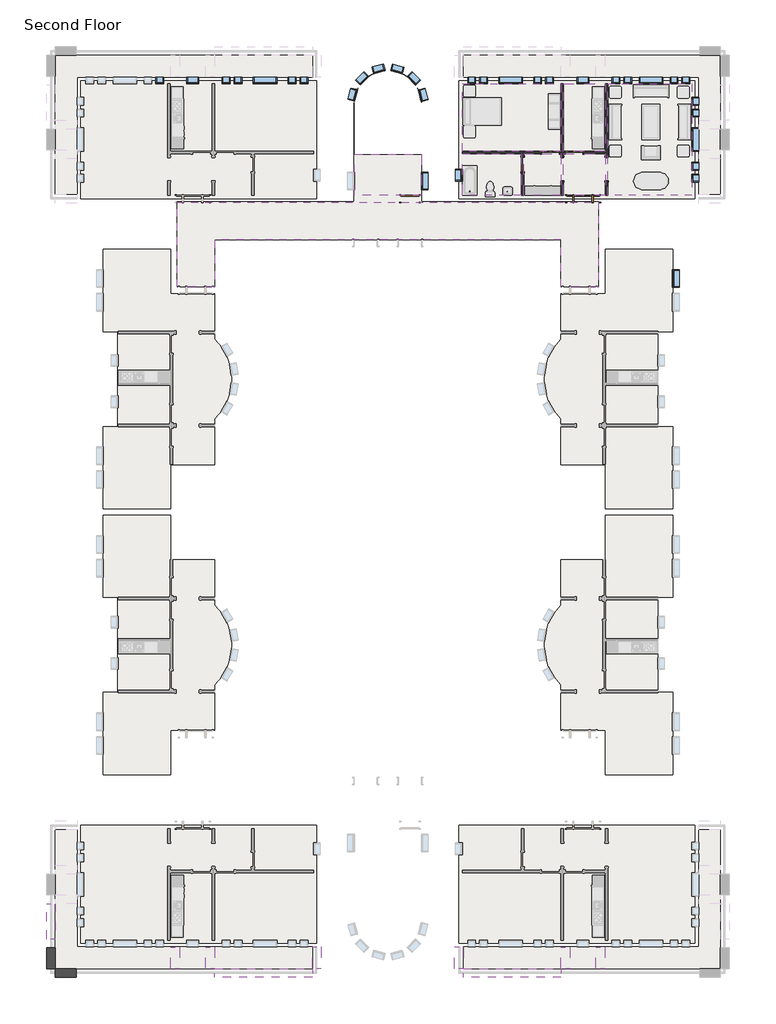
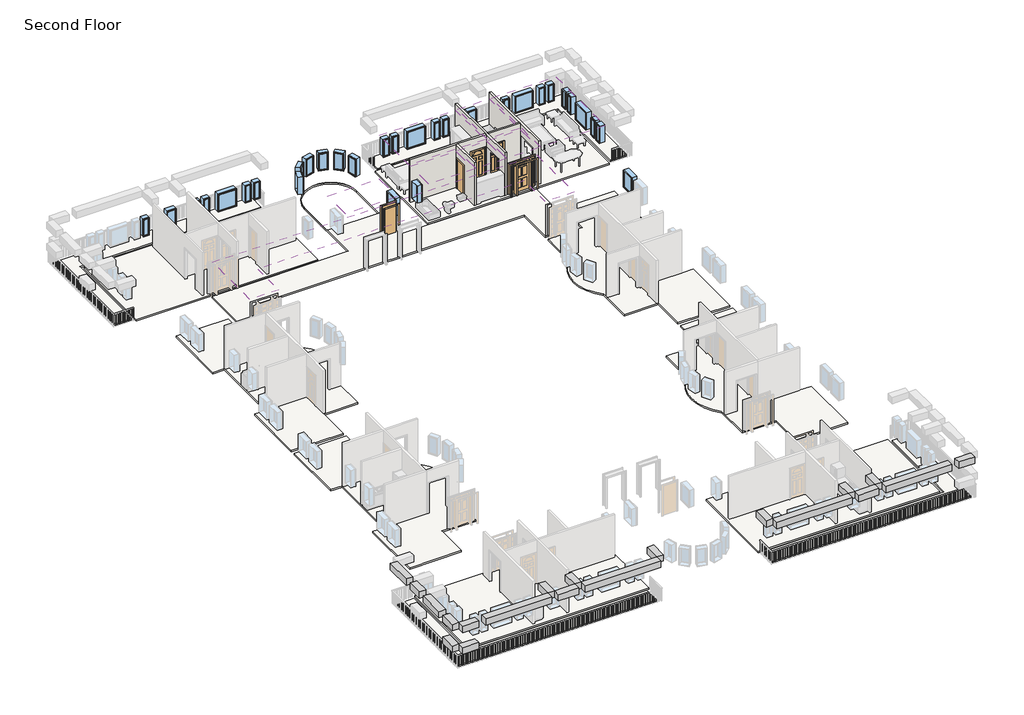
# One storey, part 3 of 4: 32 windows, 13 slabs, 11 beams, 8 coverings, 5 doors, 5 walls.
"""IFC4 building model written with IfcOpenShell, lengths in millimetres."""

from ifc_helpers import new_model, si_unit, point, frame, frame_2d, origin, place, context, project, spatial, polyline, circle_curve, trimmed, segment, composite_curve, outline, extrude, faceted_brep, transform, mapped, element, save
from components import door_829da954, door_2e3b4da2, door_4d6c7550, door_632be17d, door_dba5aa2e, window_da97879f, window_d61ef850, window_60baf983, window_ed80354a, window_15c49d37, window_0e2fc6ce, window_6eb97611, window_d89bf842

model = new_model("IFC4")

# Units and contexts
model_context = context("Model", 3, world=origin())
ifc_project = project(units=[si_unit("LENGTHUNIT", "METRE", prefix="MILLI")], contexts=[model_context])

# Site, building, storey
site = spatial("IfcSite", under=ifc_project)
building = spatial("IfcBuilding", under=site)
storey = spatial("IfcBuildingStorey", under=building, Name="Second Floor", Elevation=3048.0)

# Beams
placement = place(None, origin())
element("IfcBeam", 1, ObjectType="Concrete-Rectangular Beam : 18 x 18", at=placement, inside=storey, context=model_context, shape_type="SweptSolid", body=[
    extrude(outline(polyline([(2093.9410437, -35349.9683133), (2093.9410437, -35807.1683133), (1027.1410437, -35807.1683133), (1027.1410437, -35349.9683133), (2093.9410437, -35349.9683133)])), frame((0.0, 0.0, 5638.8), z_axis=(0.0, 0.0, 1.0), x_axis=(1.0, 0.0, 0.0)), (0.0, 0.0, 1.0), 457.2),
    extrude(outline(polyline([(569.9410437, -35349.9683133), (569.9410437, -35807.1683133), (-3862.3589563, -35807.1683133), (-3862.3589563, -35349.9683133), (569.9410437, -35349.9683133)])), frame((0.0, 0.0, 5638.8), z_axis=(0.0, 0.0, 1.0), x_axis=(1.0, 0.0, 0.0)), (0.0, 0.0, 1.0), 457.2),
    extrude(outline(polyline([(-5665.7589563, -35807.1683133), (-5665.7589563, -35349.9683133), (-4319.5589563, -35349.9683133), (-4319.5589563, -35807.1683133), (-5665.7589563, -35807.1683133)])), frame((0.0, 0.0, 5638.8), z_axis=(0.0, 0.0, 1.0), x_axis=(1.0, 0.0, 0.0)), (0.0, 0.0, 1.0), 457.2),
    extrude(outline(polyline([(-6122.9589563, -35349.9683133), (-6122.9589563, -35807.1683133), (-11164.8589563, -35807.1683133), (-11164.8589563, -35349.9683133), (-6122.9589563, -35349.9683133)])), frame((0.0, 0.0, 5638.8), z_axis=(0.0, 0.0, 1.0), x_axis=(1.0, 0.0, 0.0)), (0.0, 0.0, 1.0), 457.2),
])
element("IfcBeam", 2, ObjectType="Concrete-Rectangular Beam : 18 x 18", at=placement, inside=storey, context=model_context, shape_type="SweptSolid", body=[
    extrude(outline(polyline([(-11622.0589563, -34232.3683133), (-11164.8589563, -34232.3683133), (-11164.8589563, -35349.9683133), (-11622.0589563, -35349.9683133), (-11622.0589563, -34232.3683133)])), frame((0.0, 0.0, 5638.8), z_axis=(0.0, 0.0, 1.0), x_axis=(1.0, 0.0, 0.0)), (0.0, 0.0, 1.0), 457.2),
])
element("IfcBeam", 3, ObjectType="Concrete-Rectangular Beam : 18 x 18", at=placement, inside=storey, context=model_context, shape_type="SweptSolid", body=[
    extrude(outline(polyline([(-6122.9589563, -34251.4183133), (-5665.7589563, -34251.4183133), (-5665.7589563, -35349.9683133), (-6122.9589563, -35349.9683133), (-6122.9589563, -34251.4183133)])), frame((0.0, 0.0, 5638.8), z_axis=(0.0, 0.0, 1.0), x_axis=(1.0, 0.0, 0.0)), (0.0, 0.0, 1.0), 457.2),
])
element("IfcBeam", 4, ObjectType="Concrete-Rectangular Beam : 18 x 18", at=placement, inside=storey, context=model_context, shape_type="SweptSolid", body=[
    extrude(outline(polyline([(-4319.5589563, -34251.4183133), (-3862.3589563, -34251.4183133), (-3862.3589563, -35349.9683133), (-4319.5589563, -35349.9683133), (-4319.5589563, -34251.4183133)])), frame((0.0, 0.0, 5638.8), z_axis=(0.0, 0.0, 1.0), x_axis=(1.0, 0.0, 0.0)), (0.0, 0.0, 1.0), 457.2),
])
element("IfcBeam", 5, ObjectType="Concrete-Rectangular Beam : 18 x 18", at=placement, inside=storey, context=model_context, shape_type="SweptSolid", body=[
    extrude(outline(polyline([(-32218.2839563, -35807.1683133), (-32218.2839563, -35349.9683133), (-31151.4839563, -35349.9683133), (-31151.4839563, -35807.1683133), (-32218.2839563, -35807.1683133)])), frame((0.0, 0.0, 5638.8), z_axis=(0.0, 0.0, 1.0), x_axis=(1.0, 0.0, 0.0)), (0.0, 0.0, 1.0), 457.2),
    extrude(outline(polyline([(-30694.2839563, -35807.1683133), (-30694.2839563, -35349.9683133), (-26261.9839563, -35349.9683133), (-26261.9839563, -35807.1683133), (-30694.2839563, -35807.1683133)])), frame((0.0, 0.0, 5638.8), z_axis=(0.0, 0.0, 1.0), x_axis=(1.0, 0.0, 0.0)), (0.0, 0.0, 1.0), 457.2),
    extrude(outline(polyline([(-24458.5839563, -35349.9683133), (-24458.5839563, -35807.1683133), (-25804.7839563, -35807.1683133), (-25804.7839563, -35349.9683133), (-24458.5839563, -35349.9683133)])), frame((0.0, 0.0, 5638.8), z_axis=(0.0, 0.0, 1.0), x_axis=(1.0, 0.0, 0.0)), (0.0, 0.0, 1.0), 457.2),
    extrude(outline(polyline([(-24001.3839563, -35807.1683133), (-24001.3839563, -35349.9683133), (-18959.4839563, -35349.9683133), (-18959.4839563, -35807.1683133), (-24001.3839563, -35807.1683133)])), frame((0.0, 0.0, 5638.8), z_axis=(0.0, 0.0, 1.0), x_axis=(1.0, 0.0, 0.0)), (0.0, 0.0, 1.0), 457.2),
])
element("IfcBeam", 6, ObjectType="Concrete-Rectangular Beam : 18 x 18", at=placement, inside=storey, context=model_context, shape_type="SweptSolid", body=[
    extrude(outline(polyline([(-32218.2839563, -35349.9683133), (-32675.4839563, -35349.9683133), (-32675.4839563, -34283.1683133), (-32218.2839563, -34283.1683133), (-32218.2839563, -35349.9683133)])), frame((0.0, 0.0, 5638.8), z_axis=(0.0, 0.0, 1.0), x_axis=(1.0, 0.0, 0.0)), (0.0, 0.0, 1.0), 457.2),
    extrude(outline(polyline([(-32675.4839563, -28187.1683133), (-32218.2839563, -28187.1683133), (-32218.2839563, -30015.9683133), (-32675.4839563, -30015.9683133), (-32675.4839563, -28187.1683133)])), frame((0.0, 0.0, 5638.8), z_axis=(0.0, 0.0, 1.0), x_axis=(1.0, 0.0, 0.0)), (0.0, 0.0, 1.0), 457.2),
    extrude(outline(polyline([(-32675.4839563, -30473.1683133), (-32218.2839563, -30473.1683133), (-32218.2839563, -31539.9683133), (-32675.4839563, -31539.9683133), (-32675.4839563, -30473.1683133)])), frame((0.0, 0.0, 5638.8), z_axis=(0.0, 0.0, 1.0), x_axis=(1.0, 0.0, 0.0)), (0.0, 0.0, 1.0), 457.2),
    extrude(outline(polyline([(-32218.2839563, -33825.9683133), (-32675.4839563, -33825.9683133), (-32675.4839563, -31997.1683133), (-32218.2839563, -31997.1683133), (-32218.2839563, -33825.9683133)])), frame((0.0, 0.0, 5638.8), z_axis=(0.0, 0.0, 1.0), x_axis=(1.0, 0.0, 0.0)), (0.0, 0.0, 1.0), 457.2),
])
element("IfcBeam", 7, ObjectType="Concrete-Rectangular Beam : 18 x 18", at=placement, inside=storey, context=model_context, shape_type="SweptSolid", body=[
    extrude(outline(polyline([(-32218.2839563, -35807.1683133), (-32218.2839563, -35349.9683133), (-31151.4839563, -35349.9683133), (-31151.4839563, -35807.1683133), (-32218.2839563, -35807.1683133)])), frame((0.0, 0.0, 4114.8), z_axis=(0.0, 0.0, 1.0), x_axis=(1.0, 0.0, 0.0)), (0.0, 0.0, 1.0), 457.2),
])
element("IfcBeam", 8, ObjectType="Concrete-Rectangular Beam : 18 x 18", at=placement, inside=storey, context=model_context, shape_type="SweptSolid", body=[
    extrude(outline(polyline([(-32675.4839563, -34283.1683133), (-32218.2839563, -34283.1683133), (-32218.2839563, -35349.9683133), (-32675.4839563, -35349.9683133), (-32675.4839563, -34283.1683133)])), frame((0.0, 0.0, 4114.8), z_axis=(0.0, 0.0, 1.0), x_axis=(1.0, 0.0, 0.0)), (0.0, 0.0, 1.0), 457.2),
])
element("IfcBeam", 9, ObjectType="Concrete-Rectangular Beam : 18 x 18", at=placement, inside=storey, context=model_context, shape_type="SweptSolid", body=[
    extrude(outline(polyline([(-18959.4839563, -34232.3683133), (-18502.2839563, -34232.3683133), (-18502.2839563, -35349.9683133), (-18959.4839563, -35349.9683133), (-18959.4839563, -34232.3683133)])), frame((0.0, 0.0, 5638.8), z_axis=(0.0, 0.0, 1.0), x_axis=(1.0, 0.0, 0.0)), (0.0, 0.0, 1.0), 457.2),
])
element("IfcBeam", 10, ObjectType="Concrete-Rectangular Beam : 18 x 18", at=placement, inside=storey, context=model_context, shape_type="SweptSolid", body=[
    extrude(outline(polyline([(-24458.5839563, -34251.4183133), (-24001.3839563, -34251.4183133), (-24001.3839563, -35349.9683133), (-24458.5839563, -35349.9683133), (-24458.5839563, -34251.4183133)])), frame((0.0, 0.0, 5638.8), z_axis=(0.0, 0.0, 1.0), x_axis=(1.0, 0.0, 0.0)), (0.0, 0.0, 1.0), 457.2),
])
element("IfcBeam", 11, ObjectType="Concrete-Rectangular Beam : 18 x 18", at=placement, inside=storey, context=model_context, shape_type="SweptSolid", body=[
    extrude(outline(polyline([(-26261.9839563, -34251.4183133), (-25804.7839563, -34251.4183133), (-25804.7839563, -35349.9683133), (-26261.9839563, -35349.9683133), (-26261.9839563, -34251.4183133)])), frame((0.0, 0.0, 5638.8), z_axis=(0.0, 0.0, 1.0), x_axis=(1.0, 0.0, 0.0)), (0.0, 0.0, 1.0), 457.2),
])

# Coverings
element("IfcCovering", 12, ObjectType="GWB on Mtl. Stud", at=placement, inside=storey, context=model_context, shape_type="SweptSolid", body=[
    extrude(outline(polyline([(-11217.2464563, 10270.0191867), (-6122.9589563, 10270.0191867), (-6122.9589563, 6787.0441867), (-11217.2464563, 6787.0441867), (-11217.2464563, 10270.0191867)])), frame((0.0, 0.0, 5638.8), z_axis=(0.0, 0.0, 1.0), x_axis=(1.0, 0.0, 0.0)), (0.0, 0.0, 1.0), 107.95),
])
element("IfcCovering", 13, ObjectType="GWB on Mtl. Stud", at=placement, inside=storey, context=model_context, shape_type="SweptSolid", body=[
    extrude(outline(polyline([(-5995.9589563, 6787.0441867), (-5995.9589563, 10270.0191867), (-3836.9589563, 10270.0191867), (-3836.9589563, 6787.0441867), (-5995.9589563, 6787.0441867)])), frame((0.0, 0.0, 5638.8), z_axis=(0.0, 0.0, 1.0), x_axis=(1.0, 0.0, 0.0)), (0.0, 0.0, 1.0), 107.95),
])
element("IfcCovering", 14, ObjectType="GWB on Mtl. Stud", at=placement, inside=storey, context=model_context, shape_type="SweptSolid", body=[
    extrude(outline(polyline([(-3709.9589563, 4526.4441867), (-3709.9589563, 10270.0191867), (622.3285437, 10270.0191867), (622.3285437, 4526.4441867), (-3709.9589563, 4526.4441867)])), frame((0.0, 0.0, 5638.8), z_axis=(0.0, 0.0, 1.0), x_axis=(1.0, 0.0, 0.0)), (0.0, 0.0, 1.0), 107.95),
])
element("IfcCovering", 15, ObjectType="GWB on Mtl. Stud", at=placement, inside=storey, context=model_context, shape_type="SweptSolid", body=[
    extrude(outline(polyline([(-3836.9589563, 4526.4441867), (-5995.9589563, 4526.4441867), (-5995.9589563, 6660.0441867), (-3836.9589563, 6660.0441867), (-3836.9589563, 4526.4441867)])), frame((0.0, 0.0, 5638.8), z_axis=(0.0, 0.0, 1.0), x_axis=(1.0, 0.0, 0.0)), (0.0, 0.0, 1.0), 107.95),
])
element("IfcCovering", 16, ObjectType="GWB on Mtl. Stud", at=placement, inside=storey, context=model_context, shape_type="SweptSolid", body=[
    extrude(outline(polyline([(-6122.9589563, 4526.4441867), (-8042.2464563, 4526.4441867), (-8042.2464563, 6660.0441867), (-6122.9589563, 6660.0441867), (-6122.9589563, 4526.4441867)])), frame((0.0, 0.0, 5638.8), z_axis=(0.0, 0.0, 1.0), x_axis=(1.0, 0.0, 0.0)), (0.0, 0.0, 1.0), 107.95),
])
element("IfcCovering", 17, ObjectType="GWB on Mtl. Stud", at=placement, inside=storey, context=model_context, shape_type="SweptSolid", body=[
    extrude(outline(polyline([(-8169.2464563, 6660.0441867), (-8169.2464563, 4526.4441867), (-11217.2464563, 4526.4441867), (-11217.2464563, 6660.0441867), (-8169.2464563, 6660.0441867)])), frame((0.0, 0.0, 5638.8), z_axis=(0.0, 0.0, 1.0), x_axis=(1.0, 0.0, 0.0)), (0.0, 0.0, 1.0), 107.95),
])
element("IfcCovering", 18, ObjectType="GWB on Mtl. Stud", at=placement, inside=storey, context=model_context, shape_type="SweptSolid", body=[
    extrude(outline(polyline([(-13333.3839563, 4526.4441867), (-16790.9589563, 4526.4441867), (-16790.9589563, 6636.2316867), (-13333.3839563, 6636.2316867), (-13333.3839563, 4526.4441867)])), frame((0.0, 0.0, 5486.4), z_axis=(0.0, 0.0, 1.0), x_axis=(1.0, 0.0, 0.0)), (0.0, 0.0, 1.0), 107.95),
])
element("IfcCovering", 19, ObjectType="GWB on Mtl. Stud", at=placement, inside=storey, context=model_context, shape_type="SweptSolid", body=[
    extrude(outline(polyline([(-6122.9589563, -197.9558133), (-6122.9589563, 2240.4441867), (-24001.3839563, 2240.4441867), (-24001.3839563, -197.9558133), (-25934.9589563, -197.9558133), (-25934.9589563, 4174.0191867), (-4189.3839563, 4174.0191867), (-4189.3839563, -197.9558133), (-6122.9589563, -197.9558133)])), frame((0.0, 0.0, 5486.4), z_axis=(0.0, 0.0, 1.0), x_axis=(1.0, 0.0, 0.0)), (0.0, 0.0, 1.0), 107.95),
])

# Doors
door_shape = door_829da954(model_context)
element("IfcDoor", 20, ObjectType="Single-Decorative 2 : 36\" x 84\"", at=placement, inside=storey, context=model_context, shape_type="MappedRepresentation", body=[
    mapped(door_shape, transform((-5449.8589563, 6723.5441867, 3048.0), x_axis=(-1.0, 0.0, 0.0), y_axis=(0.0, -1.0, 0.0), z_axis=(0.0, 0.0, 1.0))),
])
door_2_shape = door_2e3b4da2(model_context)
element("IfcDoor", 21, ObjectType="Single-Decorative 2 : 36\" x 84\"", at=placement, inside=storey, context=model_context, shape_type="MappedRepresentation", body=[
    mapped(door_2_shape, transform((-6669.0589563, 6723.5441867, 3048.0), x_axis=(1.0, 0.0, 0.0), y_axis=(0.0, 1.0, 0.0), z_axis=(0.0, 0.0, 1.0))),
])
door_3_shape = door_4d6c7550(model_context)
element("IfcDoor", 22, ObjectType="Single-Flush : 30\" x 84\"", at=placement, inside=storey, context=model_context, shape_type="MappedRepresentation", body=[
    mapped(door_3_shape, transform((-8105.7464563, 6113.9441867, 3048.0), x_axis=(0.0, 1.0, 0.0), y_axis=(-1.0, 0.0, 0.0), z_axis=(0.0, 0.0, 1.0))),
])
door_4_shape = door_632be17d(model_context)
element("IfcDoor", 23, ObjectType="Single-Flush : 36\" x 84\"", at=placement, inside=storey, context=model_context, shape_type="MappedRepresentation", body=[
    mapped(door_4_shape, transform((-13919.1714563, 4350.2316867, 3048.0), x_axis=(1.0, 0.0, 0.0), y_axis=(0.0, 1.0, 0.0), z_axis=(0.0, 0.0, 1.0))),
])
door_5_shape = door_dba5aa2e(model_context)
element("IfcDoor", 24, ObjectType="Single-Raised Panel with Sidelights : 36\" x 84\"", at=placement, inside=storey, context=model_context, shape_type="MappedRepresentation", body=[
    mapped(door_5_shape, transform((-4992.6589563, 4350.2316867, 3048.0), x_axis=(-1.0, 0.0, 0.0), y_axis=(0.0, -1.0, 0.0), z_axis=(0.0, 0.0, 1.0))),
])

# Slabs
element("IfcSlab", 25, ObjectType="LW Concrete on Metal Deck", at=placement, inside=storey, context=model_context, shape_type="SweptSolid", body=[
    extrude(outline(polyline([(787.4285437, 10435.1191867), (787.4285437, 4361.3441867), (-11382.3464563, 4361.3441867), (-11382.3464563, 10435.1191867), (787.4285437, 10435.1191867)])), frame((0.0, 0.0, 2943.225), z_axis=(0.0, 0.0, 1.0), x_axis=(1.0, 0.0, 0.0)), (0.0, 0.0, 1.0), 104.775),
])
element("IfcSlab", 26, ObjectType="LW Concrete on Metal Deck", at=placement, inside=storey, context=model_context, shape_type="SweptSolid", body=[
    extrude(outline(polyline([(-11164.8589563, 11741.6316867), (2093.9410437, 11741.6316867), (2093.9410437, 4578.8316867), (974.7535437, 4578.8316867), (974.7535437, 10622.4441867), (-11164.8589563, 10622.4441867), (-11164.8589563, 11741.6316867)])), frame((0.0, 0.0, 2943.225), z_axis=(0.0, 0.0, 1.0), x_axis=(1.0, 0.0, 0.0)), (0.0, 0.0, 1.0), 104.775),
])
element("IfcSlab", 27, ObjectType="LW Concrete on Metal Deck", at=placement, inside=storey, context=model_context, shape_type="SweptSolid", body=[
    extrude(outline(composite_curve([segment(polyline([(-13320.6839563, 9227.0316867), (-13320.6839563, 4186.7191867), (-4189.3839563, 4186.7191867), (-4189.3839563, -197.9558133), (-6135.6589563, -197.9558133), (-6135.6589563, 2227.7441867), (-23988.6839563, 2227.7441867), (-23988.6839563, -197.9558133), (-25934.9589563, -197.9558133), (-25934.9589563, 4186.7191867), (-16803.6589563, 4186.7191867), (-16803.6589563, 9227.0316867)]), True, "CONTINUOUS"), segment(trimmed(circle_curve(frame_2d((-15062.1714563, 9227.0316867)), 1741.4875), [point((-16803.6589563, 9227.0316867))], [point((-13320.6839563, 9227.0316867))], False, "CARTESIAN"), True, "CONTINUOUS")], self_intersect=False), holes=[composite_curve([segment(polyline([(-16790.9589563, 6636.2316867), (-13333.3839563, 6636.2316867), (-13333.3839563, 9227.0316867)]), True, "CONTINUOUS"), segment(trimmed(circle_curve(frame_2d((-15062.1714563, 9227.0316867)), 1728.7875), [point((-13333.3839563, 9227.0316867))], [point((-16790.9589563, 9227.0316867))], True, "CARTESIAN"), True, "CONTINUOUS"), segment(polyline([(-16790.9589563, 9227.0316867), (-16790.9589563, 6636.2316867)]), True, "CONTINUOUS")], self_intersect=False)]), frame((0.0, 0.0, 2943.225), z_axis=(0.0, 0.0, 1.0), x_axis=(1.0, 0.0, 0.0)), (0.0, 0.0, 1.0), 104.775),
])
element("IfcSlab", 28, ObjectType="LW Concrete on Metal Deck", at=placement, inside=storey, context=model_context, shape_type="SweptSolid", body=[
    extrude(outline(composite_curve([segment(polyline([(-366.6839563, -7395.6808133), (-366.6839563, -11640.6558133), (-3849.6589563, -11640.6558133), (-3849.6589563, -9354.6558133), (-6135.6589563, -9354.6558133), (-6135.6589563, -6994.1453152)]), True, "CONTINUOUS"), segment(trimmed(circle_curve(frame_2d((-4122.4640713, -4946.1683133)), 2871.7875), [point((-6135.6589563, -6994.1453152))], [point((-6135.6589563, -2898.1913115))], False, "CARTESIAN"), True, "CONTINUOUS"), segment(polyline([(-6135.6589563, -2898.1913115), (-6135.6589563, -537.6808133), (-3849.6589563, -537.6808133), (-3849.6589563, 1748.3191867), (-366.6839563, 1748.3191867), (-366.6839563, -2496.6558133), (-1128.6839563, -2496.6558133), (-1128.6839563, -7395.6808133), (-366.6839563, -7395.6808133)]), True, "CONTINUOUS")], self_intersect=False)), frame((0.0, 0.0, 2943.225), z_axis=(0.0, 0.0, 1.0), x_axis=(1.0, 0.0, 0.0)), (0.0, 0.0, 1.0), 104.775),
])
element("IfcSlab", 29, ObjectType="LW Concrete on Metal Deck", at=placement, inside=storey, context=model_context, shape_type="SweptSolid", body=[
    extrude(outline(polyline([(-30911.7714563, 10435.1191867), (-18741.9964563, 10435.1191867), (-18741.9964563, 4361.3441867), (-30911.7714563, 4361.3441867), (-30911.7714563, 10435.1191867)])), frame((0.0, 0.0, 2943.225), z_axis=(0.0, 0.0, 1.0), x_axis=(1.0, 0.0, 0.0)), (0.0, 0.0, 1.0), 104.775),
])
element("IfcSlab", 30, ObjectType="LW Concrete on Metal Deck", at=placement, inside=storey, context=model_context, shape_type="SweptSolid", body=[
    extrude(outline(composite_curve([segment(polyline([(-29757.6589563, -7395.6808133), (-28995.6589563, -7395.6808133), (-28995.6589563, -2496.6558133), (-29757.6589563, -2496.6558133), (-29757.6589563, 1748.3191867), (-26274.6839563, 1748.3191867), (-26274.6839563, -537.6808133), (-23988.6839563, -537.6808133), (-23988.6839563, -2898.1913115)]), True, "CONTINUOUS"), segment(trimmed(circle_curve(frame_2d((-26001.8788413, -4946.1683133)), 2871.7875), [point((-23988.6839563, -2898.1913115))], [point((-23988.6839563, -6994.1453152))], False, "CARTESIAN"), True, "CONTINUOUS"), segment(polyline([(-23988.6839563, -6994.1453152), (-23988.6839563, -9354.6558133), (-26274.6839563, -9354.6558133), (-26274.6839563, -11640.6558133), (-29757.6589563, -11640.6558133), (-29757.6589563, -7395.6808133)]), True, "CONTINUOUS")], self_intersect=False)), frame((0.0, 0.0, 2943.225), z_axis=(0.0, 0.0, 1.0), x_axis=(1.0, 0.0, 0.0)), (0.0, 0.0, 1.0), 104.775),
])
element("IfcSlab", 31, ObjectType="LW Concrete on Metal Deck", at=placement, inside=storey, context=model_context, shape_type="SweptSolid", body=[
    extrude(outline(polyline([(-18959.4839563, 11741.6316867), (-18959.4839563, 10622.4441867), (-31099.0964563, 10622.4441867), (-31099.0964563, 4578.8316867), (-32218.2839563, 4578.8316867), (-32218.2839563, 11741.6316867), (-18959.4839563, 11741.6316867)])), frame((0.0, 0.0, 2943.225), z_axis=(0.0, 0.0, 1.0), x_axis=(1.0, 0.0, 0.0)), (0.0, 0.0, 1.0), 104.775),
])
element("IfcSlab", 32, ObjectType="LW Concrete on Metal Deck", at=placement, inside=storey, context=model_context, shape_type="SweptSolid", body=[
    extrude(outline(polyline([(787.4285437, -34043.4558133), (-11382.3464563, -34043.4558133), (-11382.3464563, -27969.6808133), (787.4285437, -27969.6808133), (787.4285437, -34043.4558133)])), frame((0.0, 0.0, 2943.225), z_axis=(0.0, 0.0, 1.0), x_axis=(1.0, 0.0, 0.0)), (0.0, 0.0, 1.0), 104.775),
])
element("IfcSlab", 33, ObjectType="LW Concrete on Metal Deck", at=placement, inside=storey, context=model_context, shape_type="SweptSolid", body=[
    extrude(outline(composite_curve([segment(polyline([(-366.6839563, -16212.6558133), (-1128.6839563, -16212.6558133), (-1128.6839563, -21111.6808133), (-366.6839563, -21111.6808133), (-366.6839563, -25356.6558133), (-3849.6589563, -25356.6558133), (-3849.6589563, -23070.6558133), (-6135.6589563, -23070.6558133), (-6135.6589563, -20710.1453152)]), True, "CONTINUOUS"), segment(trimmed(circle_curve(frame_2d((-4122.4640713, -18662.1683133)), 2871.7875), [point((-6135.6589563, -20710.1453152))], [point((-6135.6589563, -16614.1913115))], False, "CARTESIAN"), True, "CONTINUOUS"), segment(polyline([(-6135.6589563, -16614.1913115), (-6135.6589563, -14253.6808133), (-3849.6589563, -14253.6808133), (-3849.6589563, -11967.6808133), (-366.6839563, -11967.6808133), (-366.6839563, -16212.6558133)]), True, "CONTINUOUS")], self_intersect=False)), frame((0.0, 0.0, 2943.225), z_axis=(0.0, 0.0, 1.0), x_axis=(1.0, 0.0, 0.0)), (0.0, 0.0, 1.0), 104.775),
])
element("IfcSlab", 34, ObjectType="LW Concrete on Metal Deck", at=placement, inside=storey, context=model_context, shape_type="SweptSolid", body=[
    extrude(outline(polyline([(-30911.7714563, -34043.4558133), (-30911.7714563, -27969.6808133), (-18741.9964563, -27969.6808133), (-18741.9964563, -34043.4558133), (-30911.7714563, -34043.4558133)])), frame((0.0, 0.0, 2943.225), z_axis=(0.0, 0.0, 1.0), x_axis=(1.0, 0.0, 0.0)), (0.0, 0.0, 1.0), 104.775),
])
element("IfcSlab", 35, ObjectType="LW Concrete on Metal Deck", at=placement, inside=storey, context=model_context, shape_type="SweptSolid", body=[
    extrude(outline(composite_curve([segment(polyline([(-29757.6589563, -16212.6558133), (-29757.6589563, -11967.6808133), (-26274.6839563, -11967.6808133), (-26274.6839563, -14253.6808133), (-23988.6839563, -14253.6808133), (-23988.6839563, -16614.1913115)]), True, "CONTINUOUS"), segment(trimmed(circle_curve(frame_2d((-26001.8788413, -18662.1683133)), 2871.7875), [point((-23988.6839563, -16614.1913115))], [point((-23988.6839563, -20710.1453152))], False, "CARTESIAN"), True, "CONTINUOUS"), segment(polyline([(-23988.6839563, -20710.1453152), (-23988.6839563, -23070.6558133), (-26274.6839563, -23070.6558133), (-26274.6839563, -25356.6558133), (-29757.6589563, -25356.6558133), (-29757.6589563, -21111.6808133), (-28995.6589563, -21111.6808133), (-28995.6589563, -16212.6558133), (-29757.6589563, -16212.6558133)]), True, "CONTINUOUS")], self_intersect=False)), frame((0.0, 0.0, 2943.225), z_axis=(0.0, 0.0, 1.0), x_axis=(1.0, 0.0, 0.0)), (0.0, 0.0, 1.0), 104.775),
])
element("IfcSlab", 36, ObjectType="LW Concrete on Metal Deck", at=placement, inside=storey, context=model_context, shape_type="SweptSolid", body=[
    extrude(outline(polyline([(-11164.8589563, -35349.9683133), (-11164.8589563, -34230.7808133), (974.7535437, -34230.7808133), (974.7535437, -28187.1683133), (2093.9410437, -28187.1683133), (2093.9410437, -35349.9683133), (-11164.8589563, -35349.9683133)])), frame((0.0, 0.0, 2943.225), z_axis=(0.0, 0.0, 1.0), x_axis=(1.0, 0.0, 0.0)), (0.0, 0.0, 1.0), 104.775),
])
element("IfcSlab", 37, ObjectType="LW Concrete on Metal Deck", at=placement, inside=storey, context=model_context, shape_type="SweptSolid", body=[
    extrude(outline(polyline([(-18959.4839563, -35349.9683133), (-32218.2839563, -35349.9683133), (-32218.2839563, -28187.1683133), (-31099.0964563, -28187.1683133), (-31099.0964563, -34230.7808133), (-18959.4839563, -34230.7808133), (-18959.4839563, -35349.9683133)])), frame((0.0, 0.0, 2943.225), z_axis=(0.0, 0.0, 1.0), x_axis=(1.0, 0.0, 0.0)), (0.0, 0.0, 1.0), 104.775),
])

# Walls
element("IfcWall", 38, ObjectType="Interior - 5\" Partition (2-hr)", at=placement, inside=storey, context=model_context, shape_type="Brep", body=[
    faceted_brep([(-3836.9589563, 10270.0191867, 3048.0), (-3836.9589563, 6787.0441867, 3048.0), (-3836.9589563, 6660.0441867, 3048.0), (-3836.9589563, 6483.8316867, 3048.0), (-3836.9589563, 6483.8316867, 5181.6), (-3836.9589563, 5264.6316867, 5181.6), (-3836.9589563, 5264.6316867, 3048.0), (-3836.9589563, 4526.4441867, 3048.0), (-3836.9589563, 4526.4441867, 6096.0), (-3836.9589563, 6660.0441867, 6096.0), (-3836.9589563, 6787.0441867, 6096.0), (-3836.9589563, 10270.0191867, 6096.0), (-3709.9589563, 6483.8316867, 5181.6), (-3709.9589563, 6483.8316867, 3048.0), (-3709.9589563, 10270.0191867, 3048.0), (-3709.9589563, 10270.0191867, 6096.0), (-3709.9589563, 4526.4441867, 6096.0), (-3709.9589563, 4526.4441867, 3048.0), (-3709.9589563, 5264.6316867, 3048.0), (-3709.9589563, 5264.6316867, 5181.6)], [[[0, 1, 2, 3, 4, 5, 6, 7, 8, 9, 10, 11]], [[12, 13, 14, 15, 16, 17, 18, 19]], [[14, 13, 3, 2, 1, 0]], [[18, 17, 7, 6]], [[11, 10, 9, 8, 16, 15]], [[0, 11, 15, 14]], [[8, 7, 17, 16]], [[6, 5, 19, 18]], [[4, 3, 13, 12]], [[5, 4, 12, 19]]]),
])
element("IfcWall", 39, ObjectType="Interior - 5\" Partition (2-hr)", at=placement, inside=storey, context=model_context, shape_type="Brep", body=[
    faceted_brep([(-6122.9589563, 5264.6316867, 5181.6), (-6122.9589563, 5264.6316867, 3048.0), (-6122.9589563, 4526.4441867, 3048.0), (-6122.9589563, 4526.4441867, 6096.0), (-6122.9589563, 6660.0441867, 6096.0), (-6122.9589563, 6787.0441867, 6096.0), (-6122.9589563, 10270.0191867, 6096.0), (-6122.9589563, 10270.0191867, 3048.0), (-6122.9589563, 6787.0441867, 3048.0), (-6122.9589563, 6660.0441867, 3048.0), (-6122.9589563, 6483.8316867, 3048.0), (-6122.9589563, 6483.8316867, 5181.6), (-5995.9589563, 4526.4441867, 3048.0), (-5995.9589563, 5264.6316867, 3048.0), (-5995.9589563, 5264.6316867, 5181.6), (-5995.9589563, 6483.8316867, 5181.6), (-5995.9589563, 6483.8316867, 3048.0), (-5995.9589563, 6660.0441867, 3048.0), (-5995.9589563, 6787.0441867, 3048.0), (-5995.9589563, 10270.0191867, 3048.0), (-5995.9589563, 10270.0191867, 6096.0), (-5995.9589563, 6787.0441867, 6096.0), (-5995.9589563, 6660.0441867, 6096.0), (-5995.9589563, 4526.4441867, 6096.0)], [[[0, 1, 2, 3, 4, 5, 6, 7, 8, 9, 10, 11]], [[12, 13, 14, 15, 16, 17, 18, 19, 20, 21, 22, 23]], [[2, 1, 13, 12]], [[10, 9, 8, 7, 19, 18, 17, 16]], [[6, 5, 4, 3, 23, 22, 21, 20]], [[7, 6, 20, 19]], [[3, 2, 12, 23]], [[16, 15, 11, 10]], [[14, 13, 1, 0]], [[15, 14, 0, 11]]]),
])
element("IfcWall", 40, ObjectType="Interior - 5\" Partition (2-hr)", at=placement, inside=storey, context=model_context, shape_type="Brep", body=[
    faceted_brep([(-6211.8589563, 6660.0441867, 5181.6), (-6211.8589563, 6660.0441867, 3048.0), (-6122.9589563, 6660.0441867, 3048.0), (-6122.9589563, 6660.0441867, 6096.0), (-8042.2464563, 6660.0441867, 6096.0), (-8169.2464563, 6660.0441867, 6096.0), (-11217.2464563, 6660.0441867, 6096.0), (-11217.2464563, 6660.0441867, 3048.0), (-8169.2464563, 6660.0441867, 3048.0), (-8042.2464563, 6660.0441867, 3048.0), (-7126.2589563, 6660.0441867, 3048.0), (-7126.2589563, 6660.0441867, 5181.6), (-6122.9589563, 6787.0441867, 3048.0), (-6211.8589563, 6787.0441867, 3048.0), (-6211.8589563, 6787.0441867, 5181.6), (-7126.2589563, 6787.0441867, 5181.6), (-7126.2589563, 6787.0441867, 3048.0), (-11217.2464563, 6787.0441867, 3048.0), (-11217.2464563, 6787.0441867, 6096.0), (-6122.9589563, 6787.0441867, 6096.0)], [[[0, 1, 2, 3, 4, 5, 6, 7, 8, 9, 10, 11]], [[12, 13, 14, 15, 16, 17, 18, 19]], [[2, 1, 13, 12]], [[10, 9, 8, 7, 17, 16]], [[6, 5, 4, 3, 19, 18]], [[3, 2, 12, 19]], [[7, 6, 18, 17]], [[14, 13, 1, 0]], [[15, 14, 0, 11]], [[16, 15, 11, 10]]]),
])
element("IfcWall", 41, ObjectType="Interior - 5\" Partition (2-hr)", at=placement, inside=storey, context=model_context, shape_type="SweptSolid", body=[
    extrude(outline(polyline([(6660.0441867, 3048.0), (6494.9441867, 3048.0), (6494.9441867, 5181.6), (5732.9441867, 5181.6), (5732.9441867, 3048.0), (4526.4441867, 3048.0), (4526.4441867, 6096.0), (6660.0441867, 6096.0), (6660.0441867, 3048.0)])), frame((-8169.2464563, 0.0, 0.0), z_axis=(1.0, 0.0, 0.0), x_axis=(0.0, 1.0, 0.0)), (0.0, 0.0, 1.0), 127.0),
])
element("IfcWall", 42, ObjectType="Interior - 5\" Partition (2-hr)", at=placement, inside=storey, context=model_context, shape_type="SweptSolid", body=[
    extrude(outline(polyline([(3048.0, -5995.9589563), (3048.0, -5907.0589563), (5181.6, -5907.0589563), (5181.6, -4992.6589563), (3048.0, -4992.6589563), (3048.0, -3836.9589563), (6096.0, -3836.9589563), (6096.0, -5995.9589563), (3048.0, -5995.9589563)])), frame((0.0, 6660.0441867, 0.0), z_axis=(0.0, 1.0, 0.0), x_axis=(0.0, 0.0, 1.0)), (0.0, 0.0, 1.0), 127.0),
])

# Windows
window_shape = window_da97879f(model_context)
element("IfcWindow", 43, ObjectType="Fixed : 16\" x 48\"", at=placement, inside=storey, context=model_context, shape_type="MappedRepresentation", body=[
    mapped(window_shape, transform((-10771.1589563, 10446.2316867, 3048.0), x_axis=(-1.0, 0.0, 0.0), y_axis=(0.0, -1.0, 0.0), z_axis=(0.0, 0.0, 1.0))),
])
element("IfcWindow", 44, ObjectType="Fixed : 16\" x 48\"", at=placement, inside=storey, context=model_context, shape_type="MappedRepresentation", body=[
    mapped(window_shape, transform((-10161.5589563, 10446.2316867, 3048.0), x_axis=(-1.0, 0.0, 0.0), y_axis=(0.0, -1.0, 0.0), z_axis=(0.0, 0.0, 1.0))),
])
element("IfcWindow", 45, ObjectType="Fixed : 16\" x 48\"", at=placement, inside=storey, context=model_context, shape_type="MappedRepresentation", body=[
    mapped(window_shape, transform((-3328.9589563, 10446.2316867, 3048.0), x_axis=(-1.0, 0.0, 0.0), y_axis=(0.0, -1.0, 0.0), z_axis=(0.0, 0.0, 1.0))),
])
element("IfcWindow", 46, ObjectType="Fixed : 16\" x 48\"", at=placement, inside=storey, context=model_context, shape_type="MappedRepresentation", body=[
    mapped(window_shape, transform((-2719.3589563, 10446.2316867, 3048.0), x_axis=(-1.0, 0.0, 0.0), y_axis=(0.0, -1.0, 0.0), z_axis=(0.0, 0.0, 1.0))),
])
element("IfcWindow", 47, ObjectType="Fixed : 16\" x 48\"", at=placement, inside=storey, context=model_context, shape_type="MappedRepresentation", body=[
    mapped(window_shape, transform((798.5410437, 9417.5316867, 3048.0), x_axis=(0.0, 1.0, 0.0), y_axis=(-1.0, 0.0, 0.0), z_axis=(0.0, 0.0, 1.0))),
])
element("IfcWindow", 48, ObjectType="Fixed : 16\" x 48\"", at=placement, inside=storey, context=model_context, shape_type="MappedRepresentation", body=[
    mapped(window_shape, transform((798.5410437, 8807.9316867, 3048.0), x_axis=(0.0, 1.0, 0.0), y_axis=(-1.0, 0.0, 0.0), z_axis=(0.0, 0.0, 1.0))),
])
element("IfcWindow", 49, ObjectType="Fixed : 16\" x 48\"", at=placement, inside=storey, context=model_context, shape_type="MappedRepresentation", body=[
    mapped(window_shape, transform((-23442.5839563, 10446.2316867, 3048.0), x_axis=(-1.0, 0.0, 0.0), y_axis=(0.0, -1.0, 0.0), z_axis=(0.0, 0.0, 1.0))),
])
element("IfcWindow", 50, ObjectType="Fixed : 16\" x 48\"", at=placement, inside=storey, context=model_context, shape_type="MappedRepresentation", body=[
    mapped(window_shape, transform((-22832.9839563, 10446.2316867, 3048.0), x_axis=(-1.0, 0.0, 0.0), y_axis=(0.0, -1.0, 0.0), z_axis=(0.0, 0.0, 1.0))),
])
window_2_shape = window_d61ef850(model_context)
element("IfcWindow", 51, ObjectType="Fixed : 16\" x 48\"", at=placement, inside=storey, context=model_context, shape_type="MappedRepresentation", body=[
    mapped(window_2_shape, transform((-6681.7589563, 10446.2316867, 3048.0), x_axis=(1.0, 0.0, 0.0), y_axis=(0.0, 1.0, 0.0), z_axis=(0.0, 0.0, 1.0))),
])
element("IfcWindow", 52, ObjectType="Fixed : 16\" x 48\"", at=placement, inside=storey, context=model_context, shape_type="MappedRepresentation", body=[
    mapped(window_2_shape, transform((-7291.3589563, 10446.2316867, 3048.0), x_axis=(1.0, 0.0, 0.0), y_axis=(0.0, 1.0, 0.0), z_axis=(0.0, 0.0, 1.0))),
])
element("IfcWindow", 53, ObjectType="Fixed : 16\" x 48\"", at=placement, inside=storey, context=model_context, shape_type="MappedRepresentation", body=[
    mapped(window_2_shape, transform((354.0410437, 10446.2316867, 3048.0), x_axis=(1.0, 0.0, 0.0), y_axis=(0.0, 1.0, 0.0), z_axis=(0.0, 0.0, 1.0))),
])
element("IfcWindow", 54, ObjectType="Fixed : 16\" x 48\"", at=placement, inside=storey, context=model_context, shape_type="MappedRepresentation", body=[
    mapped(window_2_shape, transform((-255.5589563, 10446.2316867, 3048.0), x_axis=(1.0, 0.0, 0.0), y_axis=(0.0, 1.0, 0.0), z_axis=(0.0, 0.0, 1.0))),
])
element("IfcWindow", 55, ObjectType="Fixed : 16\" x 48\"", at=placement, inside=storey, context=model_context, shape_type="MappedRepresentation", body=[
    mapped(window_2_shape, transform((798.5410437, 5378.9316867, 3048.0), x_axis=(0.0, -1.0, 0.0), y_axis=(1.0, 0.0, 0.0), z_axis=(0.0, 0.0, 1.0))),
])
element("IfcWindow", 56, ObjectType="Fixed : 16\" x 48\"", at=placement, inside=storey, context=model_context, shape_type="MappedRepresentation", body=[
    mapped(window_2_shape, transform((798.5410437, 5988.5316867, 3048.0), x_axis=(0.0, -1.0, 0.0), y_axis=(1.0, 0.0, 0.0), z_axis=(0.0, 0.0, 1.0))),
])
element("IfcWindow", 57, ObjectType="Fixed : 16\" x 48\"", at=placement, inside=storey, context=model_context, shape_type="MappedRepresentation", body=[
    mapped(window_2_shape, transform((-19353.1839563, 10446.2316867, 3048.0), x_axis=(1.0, 0.0, 0.0), y_axis=(0.0, 1.0, 0.0), z_axis=(0.0, 0.0, 1.0))),
])
element("IfcWindow", 58, ObjectType="Fixed : 16\" x 48\"", at=placement, inside=storey, context=model_context, shape_type="MappedRepresentation", body=[
    mapped(window_2_shape, transform((-19962.7839563, 10446.2316867, 3048.0), x_axis=(1.0, 0.0, 0.0), y_axis=(0.0, 1.0, 0.0), z_axis=(0.0, 0.0, 1.0))),
])
element("IfcWindow", 59, ObjectType="Fixed : 16\" x 48\"", at=placement, inside=storey, context=model_context, shape_type="MappedRepresentation", body=[
    mapped(window_2_shape, transform((-26795.3839563, 10446.2316867, 3048.0), x_axis=(1.0, 0.0, 0.0), y_axis=(0.0, 1.0, 0.0), z_axis=(0.0, 0.0, 1.0))),
])
window_3_shape = window_60baf983(model_context)
element("IfcWindow", 60, ObjectType="Fixed : 24\" x 48\"", at=placement, inside=storey, context=model_context, shape_type="MappedRepresentation", body=[
    mapped(window_3_shape, transform((-5030.7589563, 10446.2316867, 3048.0), x_axis=(-1.0, 0.0, 0.0), y_axis=(0.0, -1.0, 0.0), z_axis=(0.0, 0.0, 1.0))),
])
element("IfcWindow", 61, ObjectType="Fixed : 24\" x 48\"", at=placement, inside=storey, context=model_context, shape_type="MappedRepresentation", body=[
    mapped(window_3_shape, transform((-11393.4589563, 5531.3316867, 3048.0), x_axis=(0.0, -1.0, 0.0), y_axis=(1.0, 0.0, 0.0), z_axis=(0.0, 0.0, 1.0))),
])
element("IfcWindow", 62, ObjectType="Fixed : 24\" x 48\"", at=placement, inside=storey, context=model_context, shape_type="MappedRepresentation", body=[
    mapped(window_3_shape, transform((-16889.064163, 9683.0417496, 3048.0), x_axis=(-0.26176149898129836, -0.9651325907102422, 0.0), y_axis=(0.9651325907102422, -0.26176149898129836, 0.0), z_axis=(0.0, 0.0, 1.0))),
])
element("IfcWindow", 63, ObjectType="Fixed : 24\" x 48\"", at=placement, inside=storey, context=model_context, shape_type="MappedRepresentation", body=[
    mapped(window_3_shape, transform((-16416.3019188, 10535.3943388, 3048.0), x_axis=(-0.7092584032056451, -0.7049485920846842, 0.0), y_axis=(0.7049485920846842, -0.7092584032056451, 0.0), z_axis=(0.0, 0.0, 1.0))),
])
element("IfcWindow", 64, ObjectType="Fixed : 24\" x 48\"", at=placement, inside=storey, context=model_context, shape_type="MappedRepresentation", body=[
    mapped(window_3_shape, transform((-15580.7015108, 11037.1722121, 3048.0), x_axis=(-0.9667100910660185, -0.25587418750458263, 0.0), y_axis=(0.25587418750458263, -0.9667100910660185, 0.0), z_axis=(0.0, 0.0, 1.0))),
])
element("IfcWindow", 65, ObjectType="Fixed : 24\" x 48\"", at=placement, inside=storey, context=model_context, shape_type="MappedRepresentation", body=[
    mapped(window_3_shape, transform((-14606.1613934, 11053.9243933, 3048.0), x_axis=(-0.9651325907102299, 0.2617614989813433, 0.0), y_axis=(-0.2617614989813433, -0.9651325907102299, 0.0), z_axis=(0.0, 0.0, 1.0))),
])
element("IfcWindow", 66, ObjectType="Fixed : 24\" x 48\"", at=placement, inside=storey, context=model_context, shape_type="MappedRepresentation", body=[
    mapped(window_3_shape, transform((-13753.8088042, 10581.1621492, 3048.0), x_axis=(-0.7049485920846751, 0.7092584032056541, 0.0), y_axis=(-0.7092584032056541, -0.7049485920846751, 0.0), z_axis=(0.0, 0.0, 1.0))),
])
element("IfcWindow", 67, ObjectType="Fixed : 24\" x 48\"", at=placement, inside=storey, context=model_context, shape_type="MappedRepresentation", body=[
    mapped(window_3_shape, transform((-13252.0309309, 9745.5617412, 3048.0), x_axis=(-0.25587418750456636, 0.9667100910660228, 0.0), y_axis=(-0.9667100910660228, -0.25587418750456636, 0.0), z_axis=(0.0, 0.0, 1.0))),
])
window_4_shape = window_ed80354a(model_context)
element("IfcWindow", 68, ObjectType="Fixed : 24\" x 48\"", at=placement, inside=storey, context=model_context, shape_type="MappedRepresentation", body=[
    mapped(window_4_shape, transform((-25093.5839563, 10446.2316867, 3048.0), x_axis=(1.0, 0.0, 0.0), y_axis=(0.0, 1.0, 0.0), z_axis=(0.0, 0.0, 1.0))),
])
window_5_shape = window_15c49d37(model_context)
element("IfcWindow", 69, ObjectType="Fixed : 36\" x 48\"", at=placement, inside=storey, context=model_context, shape_type="MappedRepresentation", body=[
    mapped(window_5_shape, transform((-13157.1714563, 5302.7316867, 3048.0), x_axis=(0.0, 1.0, 0.0), y_axis=(-1.0, 0.0, 0.0), z_axis=(0.0, 0.0, 1.0))),
])
window_6_shape = window_0e2fc6ce(model_context)
element("IfcWindow", 70, ObjectType="Fixed : 36\" x 48\"", at=placement, inside=storey, context=model_context, shape_type="MappedRepresentation", body=[
    mapped(window_6_shape, transform((-203.1714563, 197.3316867, 3048.0), x_axis=(0.0, -1.0, 0.0), y_axis=(1.0, 0.0, 0.0), z_axis=(0.0, 0.0, 1.0))),
])
window_7_shape = window_6eb97611(model_context)
element("IfcWindow", 71, ObjectType="Fixed : 48\" x 48\"", at=placement, inside=storey, context=model_context, shape_type="MappedRepresentation", body=[
    mapped(window_7_shape, transform((-8764.5589563, 10446.2316867, 3048.0), x_axis=(-1.0, 0.0, 0.0), y_axis=(0.0, -1.0, 0.0), z_axis=(0.0, 0.0, 1.0))),
])
element("IfcWindow", 72, ObjectType="Fixed : 48\" x 48\"", at=placement, inside=storey, context=model_context, shape_type="MappedRepresentation", body=[
    mapped(window_7_shape, transform((-1525.5589563, 10446.2316867, 3048.0), x_axis=(-1.0, 0.0, 0.0), y_axis=(0.0, -1.0, 0.0), z_axis=(0.0, 0.0, 1.0))),
])
element("IfcWindow", 73, ObjectType="Fixed : 48\" x 48\"", at=placement, inside=storey, context=model_context, shape_type="MappedRepresentation", body=[
    mapped(window_7_shape, transform((798.5410437, 7436.3316867, 3048.0), x_axis=(0.0, 1.0, 0.0), y_axis=(-1.0, 0.0, 0.0), z_axis=(0.0, 0.0, 1.0))),
])
window_8_shape = window_d89bf842(model_context)
element("IfcWindow", 74, ObjectType="Fixed : 48\" x 48\"", at=placement, inside=storey, context=model_context, shape_type="MappedRepresentation", body=[
    mapped(window_8_shape, transform((-21359.7839563, 10446.2316867, 3048.0), x_axis=(1.0, 0.0, 0.0), y_axis=(0.0, 1.0, 0.0), z_axis=(0.0, 0.0, 1.0))),
])

save(model, "model.ifc")
